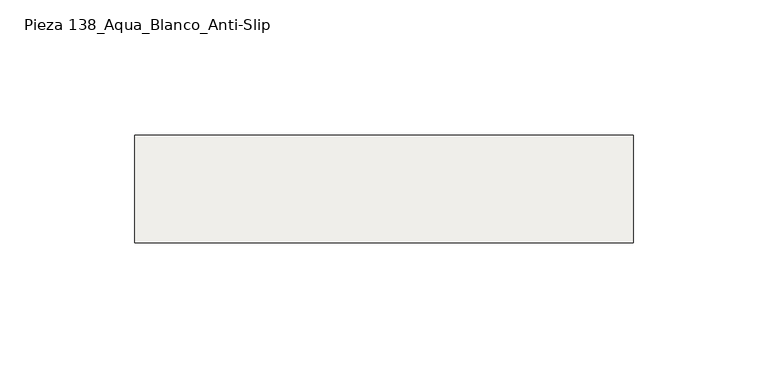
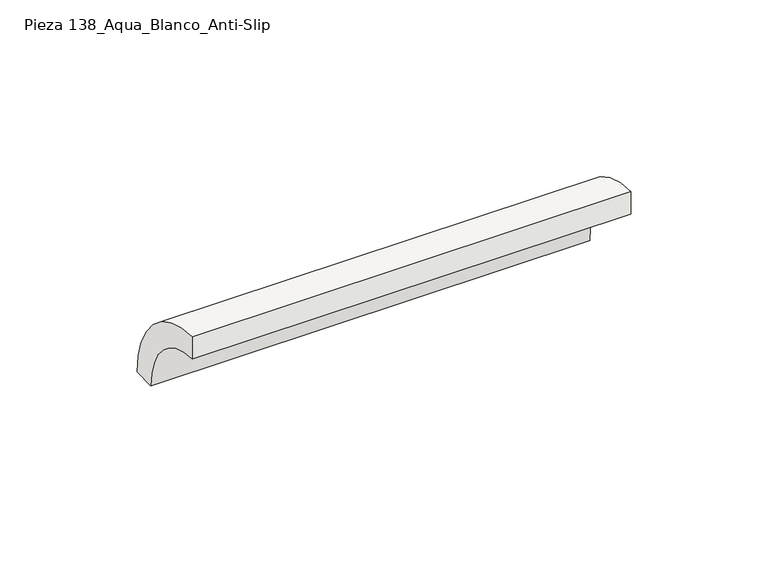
"""IFC4 building model written with IfcOpenShell, lengths in millimetres: slab geometry, ROSA GRES_138 : Pieza 138_Aqua_Blanco_Anti-Slip."""

from ifc_helpers import new_model, si_unit, point, frame, frame_2d, origin, origin_2d, place, context, project, spatial, polyline, circle_curve, trimmed, segment, composite_curve, outline, extrude, source, transform, mapped, element, save


def pieza_138_aqua_blanco_anti_slip_b4b882b4(model_context):
    return source(origin(), model_context, "Body", "SweptSolid", [
        extrude(outline(composite_curve([segment(trimmed(circle_curve(origin_2d(), 40.0), [point((0.0, 40.0))], [point((40.0, 0.0))], False, "CARTESIAN"), True, "CONTINUOUS"), segment(polyline([(40.0, 0.0), (30.0265886, 0.0)]), True, "CONTINUOUS"), segment(trimmed(circle_curve(frame_2d((0.0044453, 0.0044453)), 30.0221435), [point((30.0265886, 0.0))], [point((0.0, 30.0265886))], True, "CARTESIAN"), True, "CONTINUOUS"), segment(polyline([(0.0, 30.0265886), (0.0, 40.0)]), True, "CONTINUOUS")], self_intersect=False)), frame((0.0, 0.0, 0.0), z_axis=(1.0, 0.0, 0.0), x_axis=(0.0, 1.0, 0.0)), (0.0, 0.0, 1.0), 184.4683332),
    ])


if __name__ == "__main__":
    model = new_model("IFC4")
    model_context = context("Model", 3, world=origin())
    ifc_project = project(units=[si_unit("LENGTHUNIT", "METRE", prefix="MILLI")], contexts=[model_context])
    site = spatial("IfcSite", under=ifc_project)
    building = spatial("IfcBuilding", under=site)
    placement = place(None, origin())
    pieza_138_aqua_blanco_anti_slip_shape = pieza_138_aqua_blanco_anti_slip_b4b882b4(model_context)
    element("IfcSlab", 1, ObjectType="ROSA GRES_138 : Pieza 138_Aqua_Blanco_Anti-Slip", at=placement, inside=building, context=model_context, shape_type="MappedRepresentation", body=[
        mapped(pieza_138_aqua_blanco_anti_slip_shape, transform((0.0, 0.0, 0.0), x_axis=(1.0, 0.0, 0.0), y_axis=(0.0, 1.0, 0.0), z_axis=(0.0, 0.0, 1.0))),
    ])
    save(model, "model.ifc")
